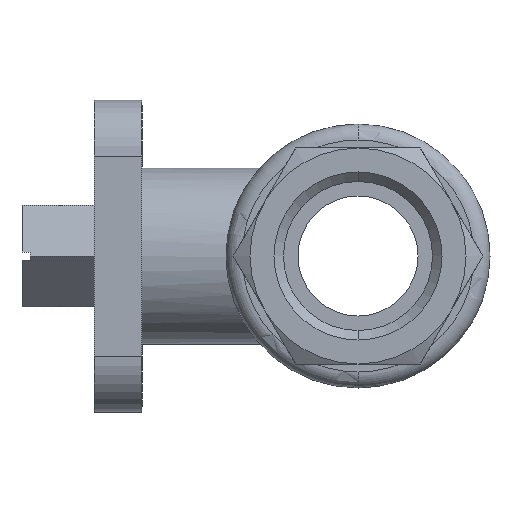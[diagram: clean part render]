
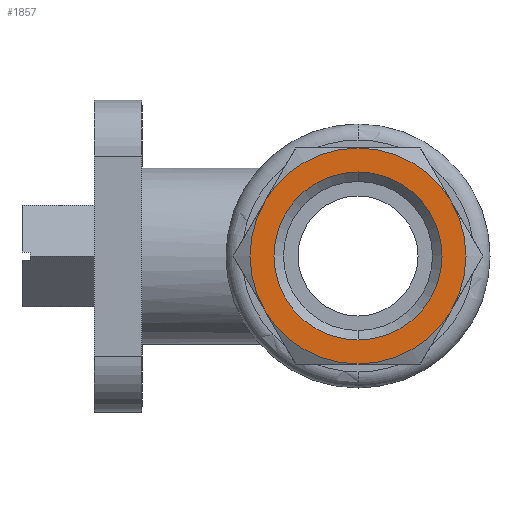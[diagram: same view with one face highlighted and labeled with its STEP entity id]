
A CAD part, left-side view. The second image highlights one B-rep face of the part: STEP entity #1857.
In plain terms, the highlighted planar face has unit normal (-1, 0, 0).
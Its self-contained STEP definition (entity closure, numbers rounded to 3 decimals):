
#166 = CARTESIAN_POINT ( 'NONE',  ( -33.5, 0., 0. ) ) ;
#167 = DIRECTION ( 'NONE',  ( -1., 0., 0. ) ) ;
#168 = DIRECTION ( 'NONE',  ( 0., 0., 1. ) ) ;
#484 = CARTESIAN_POINT ( 'NONE',  ( -33.5, 0., 0. ) ) ;
#485 = CARTESIAN_POINT ( 'NONE',  ( -33.5, 0., 0. ) ) ;
#486 = DIRECTION ( 'NONE',  ( -1., 0., 0. ) ) ;
#487 = DIRECTION ( 'NONE',  ( 0., 0., 1. ) ) ;
#488 = CARTESIAN_POINT ( 'NONE',  ( -33.5, 0., 0. ) ) ;
#489 = CARTESIAN_POINT ( 'NONE',  ( -33.5, 0., 0. ) ) ;
#490 = DIRECTION ( 'NONE',  ( -1., 0., 0. ) ) ;
#491 = DIRECTION ( 'NONE',  ( 0., 0., 1. ) ) ;
#492 = CARTESIAN_POINT ( 'NONE',  ( -33.5, 0., 0. ) ) ;
#493 = DIRECTION ( 'NONE',  ( -1., 0., 0. ) ) ;
#494 = DIRECTION ( 'NONE',  ( 0., 0., 1. ) ) ;
#495 = CARTESIAN_POINT ( 'NONE',  ( -33.5, 0., 0. ) ) ;
#496 = DIRECTION ( 'NONE',  ( -1., 0., 0. ) ) ;
#497 = DIRECTION ( 'NONE',  ( 0., 0., 1. ) ) ;
#498 = CARTESIAN_POINT ( 'NONE',  ( -33.5, 0., 0. ) ) ;
#499 = DIRECTION ( 'NONE',  ( -1., 0., 0. ) ) ;
#500 = DIRECTION ( 'NONE',  ( 0., 0., 1. ) ) ;
#506 = DIRECTION ( 'NONE',  ( -1., 0., 0. ) ) ;
#507 = DIRECTION ( 'NONE',  ( 0., 0., 1. ) ) ;
#508 = DIRECTION ( 'NONE',  ( -1., 0., 0. ) ) ;
#509 = DIRECTION ( 'NONE',  ( 0., 0., 1. ) ) ;
#1045 = CARTESIAN_POINT ( 'NONE',  ( -33.5, 15.588, 0. ) ) ;
#1056 = PLANE ( 'NONE',  #2120 ) ;
#1057 = DIRECTION ( 'NONE',  ( 1., 0., 0. ) ) ;
#1058 = DIRECTION ( 'NONE',  ( 0., 0., -1. ) ) ;
#1359 = CARTESIAN_POINT ( 'NONE',  ( -33.5, 0., 10.503 ) ) ;
#1360 = CARTESIAN_POINT ( 'NONE',  ( -33.5, 0., -10.503 ) ) ;
#1406 = CARTESIAN_POINT ( 'NONE',  ( -33.5, 11.691, -6.75 ) ) ;
#1407 = CARTESIAN_POINT ( 'NONE',  ( -33.5, 11.691, 6.75 ) ) ;
#1410 = CARTESIAN_POINT ( 'NONE',  ( -33.5, 0., 13.5 ) ) ;
#1421 = CARTESIAN_POINT ( 'NONE',  ( -33.5, -11.691, -6.75 ) ) ;
#1422 = CARTESIAN_POINT ( 'NONE',  ( -33.5, -11.691, 6.75 ) ) ;
#1424 = CARTESIAN_POINT ( 'NONE',  ( -33.5, 0., -13.5 ) ) ;
#1633 = EDGE_CURVE ( 'NONE', #2251, #2250, #2459, .T. ) ;
#1707 = EDGE_CURVE ( 'NONE', #2298, #2297, #3340, .T. ) ;
#1708 = EDGE_CURVE ( 'NONE', #2297, #2315, #3341, .T. ) ;
#1709 = EDGE_CURVE ( 'NONE', #2250, #2251, #3342, .T. ) ;
#1710 = EDGE_CURVE ( 'NONE', #2313, #2301, #3344, .T. ) ;
#1711 = EDGE_CURVE ( 'NONE', #2315, #2312, #3346, .T. ) ;
#1714 = EDGE_CURVE ( 'NONE', #2301, #2298, #3350, .T. ) ;
#1715 = EDGE_CURVE ( 'NONE', #2312, #2313, #3352, .T. ) ;
#1857 = ADVANCED_FACE ( 'NONE', ( #3585, #3580 ), #1056, .F. ) ;
#1976 = AXIS2_PLACEMENT_3D ( 'NONE', #166, #167, #168 ) ;
#1977 = AXIS2_PLACEMENT_3D ( 'NONE', #484, #486, #487 ) ;
#1981 = AXIS2_PLACEMENT_3D ( 'NONE', #485, #493, #494 ) ;
#1985 = AXIS2_PLACEMENT_3D ( 'NONE', #488, #490, #491 ) ;
#1986 = AXIS2_PLACEMENT_3D ( 'NONE', #489, #496, #497 ) ;
#1987 = AXIS2_PLACEMENT_3D ( 'NONE', #492, #499, #500 ) ;
#1988 = AXIS2_PLACEMENT_3D ( 'NONE', #495, #506, #507 ) ;
#1989 = AXIS2_PLACEMENT_3D ( 'NONE', #498, #508, #509 ) ;
#2120 = AXIS2_PLACEMENT_3D ( 'NONE', #1045, #1057, #1058 ) ;
#2250 = VERTEX_POINT ( 'NONE', #1359 ) ;
#2251 = VERTEX_POINT ( 'NONE', #1360 ) ;
#2297 = VERTEX_POINT ( 'NONE', #1406 ) ;
#2298 = VERTEX_POINT ( 'NONE', #1407 ) ;
#2301 = VERTEX_POINT ( 'NONE', #1410 ) ;
#2312 = VERTEX_POINT ( 'NONE', #1421 ) ;
#2313 = VERTEX_POINT ( 'NONE', #1422 ) ;
#2315 = VERTEX_POINT ( 'NONE', #1424 ) ;
#2459 = CIRCLE ( 'NONE', #1976, 10.503 ) ;
#2965 = EDGE_LOOP ( 'NONE', ( #3947, #3946 ) ) ;
#2969 = EDGE_LOOP ( 'NONE', ( #3945, #3944, #3943, #3942, #3941, #3940 ) ) ;
#3340 = CIRCLE ( 'NONE', #1977, 13.5 ) ;
#3341 = CIRCLE ( 'NONE', #1985, 13.5 ) ;
#3342 = CIRCLE ( 'NONE', #1981, 10.503 ) ;
#3344 = CIRCLE ( 'NONE', #1986, 13.5 ) ;
#3346 = CIRCLE ( 'NONE', #1987, 13.5 ) ;
#3350 = CIRCLE ( 'NONE', #1988, 13.5 ) ;
#3352 = CIRCLE ( 'NONE', #1989, 13.5 ) ;
#3580 = FACE_OUTER_BOUND ( 'NONE', #2969, .T. ) ;
#3585 = FACE_BOUND ( 'NONE', #2965, .T. ) ;
#3940 = ORIENTED_EDGE ( 'NONE', *, *, #1707, .T. ) ;
#3941 = ORIENTED_EDGE ( 'NONE', *, *, #1714, .T. ) ;
#3942 = ORIENTED_EDGE ( 'NONE', *, *, #1710, .T. ) ;
#3943 = ORIENTED_EDGE ( 'NONE', *, *, #1715, .T. ) ;
#3944 = ORIENTED_EDGE ( 'NONE', *, *, #1711, .T. ) ;
#3945 = ORIENTED_EDGE ( 'NONE', *, *, #1708, .T. ) ;
#3946 = ORIENTED_EDGE ( 'NONE', *, *, #1633, .F. ) ;
#3947 = ORIENTED_EDGE ( 'NONE', *, *, #1709, .F. ) ;
